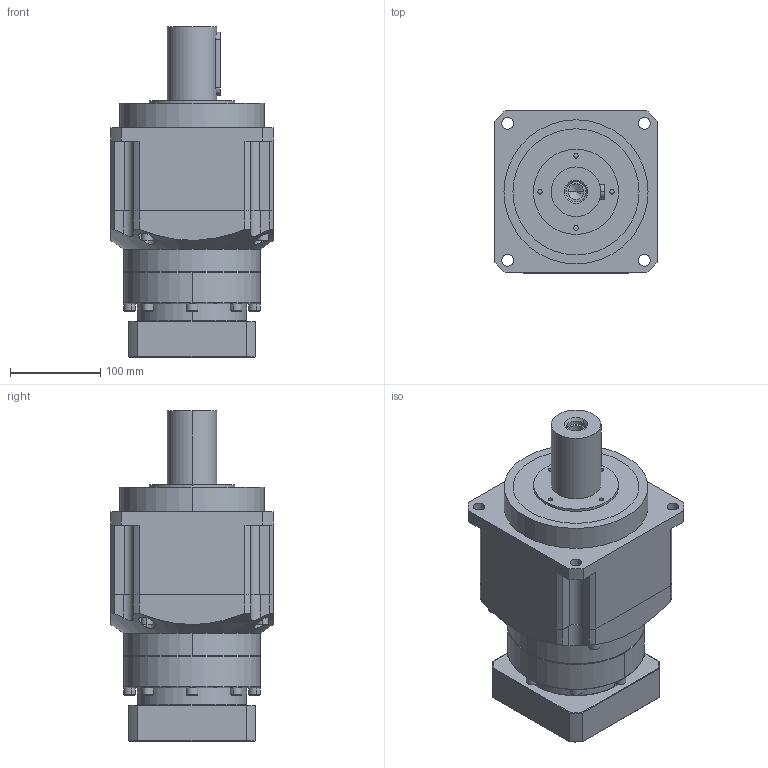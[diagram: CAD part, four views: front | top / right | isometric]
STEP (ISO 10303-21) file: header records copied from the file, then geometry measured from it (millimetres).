
FILE_DESCRIPTION (( 'STEP AP203' ), '1' );
FILE_NAME ('5A6XT.110140.142.STEP', '2021-07-08T07:19:46', ( '' ), ( '' ), 'SwSTEP 2.0', 'SolidWorks 2010', '' );
FILE_SCHEMA (( 'CONFIG_CONTROL_DESIGN' ));
Length unit declared in the file: millimetre
Products named in the file (10): 雙圓鍵-出力軸_Default; PUL180-B(模型)_Default; PUL180T-EB(模型)(新)_雙段; PHF200T-BP_3.成品; 2341F56411; 內六角螺絲M10_M10x25L; PL142鎖緊環; 沉頭內六角M8x40L_CBAL8-15; 沉頭內六角M6xP1.0x30_CB6-6; 5A6XT.110140.142
Assembly tree (23 placements, depth 2):
  5A6XT.110140.142
    沉頭內六角M8x40L_CBAL8-15  x8
    沉頭內六角M6xP1.0x30_CB6-6  x8
    PUL180-B(模型)_Default
    PHF200T-BP_3.成品
    雙圓鍵-出力軸_Default
    PL142鎖緊環
    PUL180T-EB(模型)(新)_雙段
    2341F56411
    內六角螺絲M10_M10x25L
Bounding box: 180 x 180 x 367 mm (x, y, z)
Volume: 6549101.3 mm3; surface area: 459479.8 mm2
Topology: 23 solids, 23 shells, 904 faces, 2173 edges, 1320 vertices
Faces by surface type: plane 398, cylinder 308, cone 190, torus 8
Entity records: 18839 total; most frequent: CARTESIAN_POINT 3800, DIRECTION 3035, ORIENTED_EDGE 2710, EDGE_CURVE 1355, AXIS2_PLACEMENT_3D 1193, VERTEX_POINT 872, EDGE_LOOP 655, VECTOR 649
